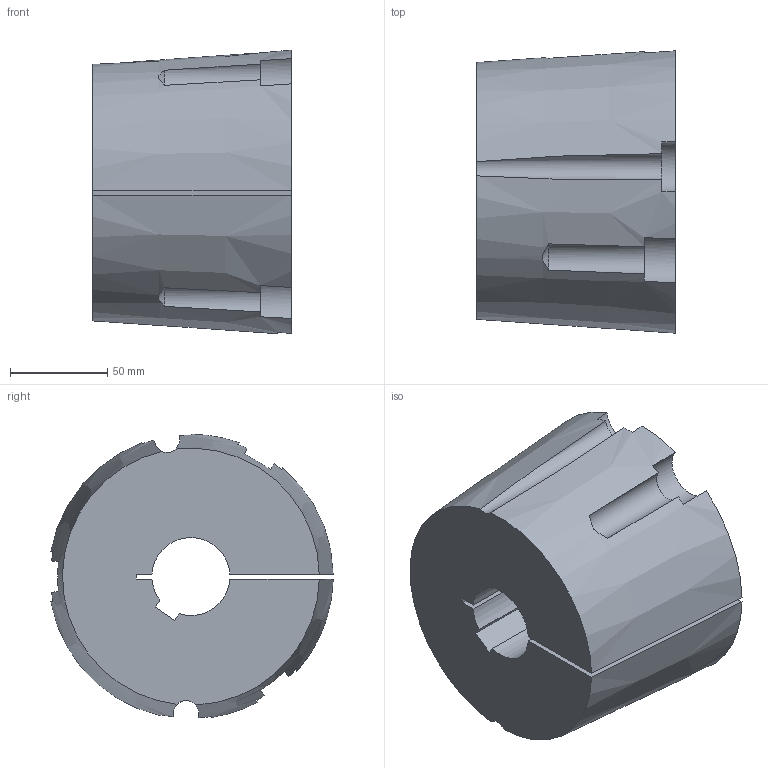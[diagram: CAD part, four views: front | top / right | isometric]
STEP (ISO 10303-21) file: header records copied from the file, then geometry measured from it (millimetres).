
FILE_DESCRIPTION( ( 'STEP AP203' ), '1' );
FILE_NAME( 'D:/export/antriebselemente/spannbuchsen_und_spannsaetze/taper-spannbuchsen_1008_bis_5050/taper-spannbuchsen_62251440Isometric_234.stp', '2018-12-11T11:11:31', ( '' ), ( '' ), ' ', 'PARTsolutions', ' ' );
FILE_SCHEMA( ( 'CONFIG_CONTROL_DESIGN' ) );
Length unit declared in the file: millimetre
Products named in the file (1): _taper-spannbuchsen_62251440
Bounding box: 102 x 144.84 x 145.4 mm (x, y, z)
Volume: 1356066 mm3; surface area: 99508.8 mm2
Topology: 1 solids, 1 shells, 34 faces, 96 edges, 64 vertices
Faces by surface type: plane 15, cylinder 13, cone 6
Entity records: 1310 total; most frequent: CARTESIAN_POINT 386, ORIENTED_EDGE 192, DIRECTION 186, EDGE_CURVE 96, AXIS2_PLACEMENT_3D 80, VERTEX_POINT 64, CIRCLE 45, ADVANCED_FACE 34
